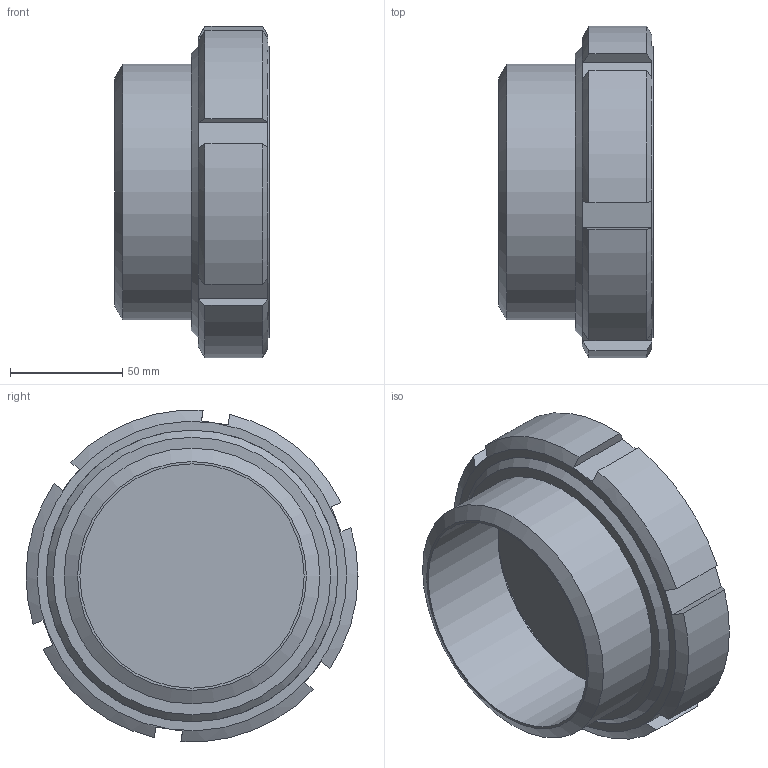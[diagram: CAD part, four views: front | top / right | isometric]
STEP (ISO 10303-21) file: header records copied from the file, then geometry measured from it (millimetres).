
FILE_DESCRIPTION(/* description */ ('Unknown'),/* implementation_level */ '2;1');
FILE_NAME(/* name */ 'MV 100',/* time_stamp */ '2016-01-18T15:16:26+01:00',/* author */ ('Unknown'),/* organization */ ('Unknown'),/* preprocessor_version */ 'ST-DEVELOPER v16.7',/* originating_system */ 'DEX',/* authorisation */ $);
FILE_SCHEMA (('CONFIG_CONTROL_DESIGN'));
Length unit declared in the file: millimetre
Products named in the file (6): 0207.003.38_01; 0863.176.38_01; 4019.014.38; 1775.008.38; 5684.009.38; 8412.008.38
Assembly tree (5 placements, depth 2):
  0207.003.38_01
    0863.176.38_01
    4019.014.38
    1775.008.38
    5684.009.38
    8412.008.38
Bounding box: 68.75 x 148 x 147.67 mm (x, y, z)
Volume: 474904.5 mm3; surface area: 136999.9 mm2
Topology: 5 solids, 5 shells, 76 faces, 167 edges, 106 vertices
Faces by surface type: plane 33, cylinder 21, cone 20, torus 2
Full cylindrical faces by diameter (mm): 100 x3, 103 x1, 104 x1, 113 x1, 114 x3, 123.65 x1, 124.285 x1, 127 x1, 130 x3
Entity records: 2309 total; most frequent: CARTESIAN_POINT 494, DIRECTION 330, ORIENTED_EDGE 280, AXIS2_PLACEMENT_3D 144, EDGE_CURVE 140, EDGE_LOOP 114, FACE_BOUND 114, VERTEX_POINT 104
